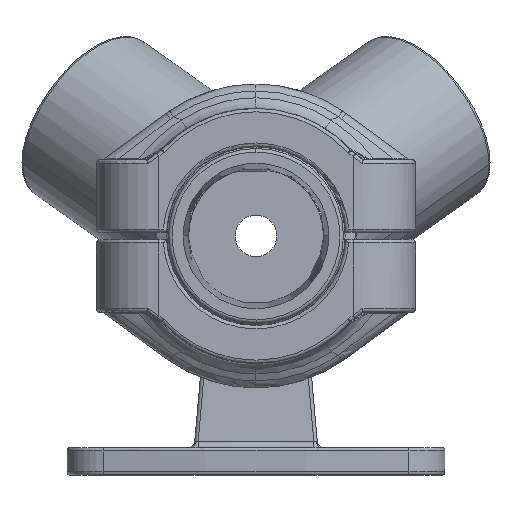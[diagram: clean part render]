
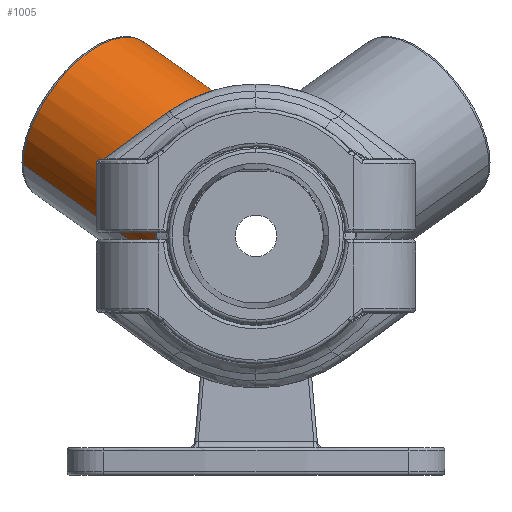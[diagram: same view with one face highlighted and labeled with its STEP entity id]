
A CAD part, left-side view. The second image highlights one B-rep face of the part: STEP entity #1005.
In plain terms, the highlighted cylindrical face has radius 13.5 mm (diameter 27 mm), a partial arc.
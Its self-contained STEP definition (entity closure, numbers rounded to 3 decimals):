
#512=B_SPLINE_CURVE_WITH_KNOTS('',3,(#12126,#12127,#12128,#12129),.UNSPECIFIED.,
 .F.,.F.,(4,4),(0.,1.),.UNSPECIFIED.);
#513=B_SPLINE_CURVE_WITH_KNOTS('',3,(#12153,#12154,#12155,#12156,#12157,
#12158,#12159,#12160,#12161,#12162,#12163,#12164,#12165,#12166,#12167,#12168,
#12169),.UNSPECIFIED.,.F.,.F.,(4,1,1,1,2,2,2,2,2,4),(0.,0.25,
0.375,0.437,0.469,0.5,0.625,
0.687,0.75,1.),.UNSPECIFIED.);
#514=B_SPLINE_CURVE_WITH_KNOTS('',3,(#12171,#12172,#12173,#12174,#12175,
#12176,#12177,#12178,#12179,#12180),.UNSPECIFIED.,.F.,.F.,(4,2,2,2,4),(0.,
0.25,0.5,0.75,1.),.UNSPECIFIED.);
#515=B_SPLINE_CURVE_WITH_KNOTS('',3,(#12182,#12183,#12184,#12185,#12186,
#12187,#12188,#12189),.UNSPECIFIED.,.F.,.F.,(4,2,2,4),(0.,0.25,0.5,1.),.UNSPECIFIED.);
#1005=ADVANCED_FACE('',(#1710),#1537,.T.);
#1537=CYLINDRICAL_SURFACE('',#8609,13.5);
#1710=FACE_OUTER_BOUND('',#2227,.T.);
#2227=EDGE_LOOP('',(#3618,#3619,#3620,#3621,#3622,#3623,#3624));
#2810=LINE('',#12150,#3164);
#2811=LINE('',#12190,#3165);
#3164=VECTOR('',#9513,1.);
#3165=VECTOR('',#9514,1.);
#3618=ORIENTED_EDGE('',*,*,#6901,.T.);
#3619=ORIENTED_EDGE('',*,*,#6902,.F.);
#3620=ORIENTED_EDGE('',*,*,#6903,.F.);
#3621=ORIENTED_EDGE('',*,*,#6904,.F.);
#3622=ORIENTED_EDGE('',*,*,#6900,.F.);
#3623=ORIENTED_EDGE('',*,*,#6905,.T.);
#3624=ORIENTED_EDGE('',*,*,#6906,.F.);
#6130=VERTEX_POINT('',#12066);
#6131=VERTEX_POINT('',#12125);
#6132=VERTEX_POINT('',#12151);
#6133=VERTEX_POINT('',#12152);
#6134=VERTEX_POINT('',#12170);
#6135=VERTEX_POINT('',#12181);
#6136=VERTEX_POINT('',#12191);
#6900=EDGE_CURVE('',#6130,#6131,#512,.T.);
#6901=EDGE_CURVE('',#6132,#6133,#2810,.T.);
#6902=EDGE_CURVE('',#6134,#6133,#513,.T.);
#6903=EDGE_CURVE('',#6135,#6134,#514,.T.);
#6904=EDGE_CURVE('',#6131,#6135,#515,.T.);
#6905=EDGE_CURVE('',#6130,#6136,#2811,.T.);
#6906=EDGE_CURVE('',#6132,#6136,#8118,.T.);
#8118=CIRCLE('',#8608,13.5);
#8608=AXIS2_PLACEMENT_3D('',#12192,#9515,#9516);
#8609=AXIS2_PLACEMENT_3D('',#12193,#9517,#9518);
#9513=DIRECTION('',(-0.5,-0.707,-0.5));
#9514=DIRECTION('',(0.5,0.707,0.5));
#9515=DIRECTION('',(0.5,0.707,0.5));
#9516=DIRECTION('',(-0.5,0.707,-0.5));
#9517=DIRECTION('',(-0.5,-0.707,-0.5));
#9518=DIRECTION('',(0.5,-0.707,0.5));
#12066=CARTESIAN_POINT('',(64.484,1.392,14.484));
#12125=CARTESIAN_POINT('',(63.5,0.707,14.465));
#12126=CARTESIAN_POINT('',(64.484,1.392,14.484));
#12127=CARTESIAN_POINT('',(64.158,1.16,14.483));
#12128=CARTESIAN_POINT('',(63.83,0.932,14.476));
#12129=CARTESIAN_POINT('',(63.5,0.707,14.465));
#12150=CARTESIAN_POINT('',(60.25,33.588,10.25));
#12151=CARTESIAN_POINT('',(60.25,33.588,10.25));
#12152=CARTESIAN_POINT('',(46.151,13.649,-3.849));
#12153=CARTESIAN_POINT('',(44.337,14.328,0.256));
#12154=CARTESIAN_POINT('',(44.463,14.322,-0.102));
#12155=CARTESIAN_POINT('',(44.662,14.292,-0.635));
#12156=CARTESIAN_POINT('',(44.911,14.224,-1.248));
#12157=CARTESIAN_POINT('',(45.04,14.181,-1.551));
#12158=CARTESIAN_POINT('',(45.095,14.161,-1.681));
#12159=CARTESIAN_POINT('',(45.133,14.148,-1.767));
#12160=CARTESIAN_POINT('',(45.167,14.135,-1.844));
#12161=CARTESIAN_POINT('',(45.185,14.127,-1.887));
#12162=CARTESIAN_POINT('',(45.231,14.111,-1.99));
#12163=CARTESIAN_POINT('',(45.347,14.062,-2.245));
#12164=CARTESIAN_POINT('',(45.394,14.042,-2.347));
#12165=CARTESIAN_POINT('',(45.505,13.991,-2.584));
#12166=CARTESIAN_POINT('',(45.59,13.951,-2.761));
#12167=CARTESIAN_POINT('',(45.854,13.82,-3.299));
#12168=CARTESIAN_POINT('',(46.027,13.721,-3.623));
#12169=CARTESIAN_POINT('',(46.151,13.649,-3.849));
#12170=CARTESIAN_POINT('',(44.337,14.328,0.256));
#12171=CARTESIAN_POINT('',(46.501,0.269,14.156));
#12172=CARTESIAN_POINT('',(45.577,1.939,14.181));
#12173=CARTESIAN_POINT('',(44.805,3.706,13.912));
#12174=CARTESIAN_POINT('',(43.584,7.105,12.66));
#12175=CARTESIAN_POINT('',(43.145,8.738,11.672));
#12176=CARTESIAN_POINT('',(42.719,11.489,9.058));
#12177=CARTESIAN_POINT('',(42.737,12.597,7.437));
#12178=CARTESIAN_POINT('',(43.231,14.03,3.931));
#12179=CARTESIAN_POINT('',(43.701,14.357,2.059));
#12180=CARTESIAN_POINT('',(44.337,14.328,0.256));
#12181=CARTESIAN_POINT('',(46.501,0.269,14.156));
#12182=CARTESIAN_POINT('',(63.5,0.707,14.465));
#12183=CARTESIAN_POINT('',(62.364,0.703,15.443));
#12184=CARTESIAN_POINT('',(60.99,0.685,16.131));
#12185=CARTESIAN_POINT('',(58.089,0.632,16.911));
#12186=CARTESIAN_POINT('',(56.566,0.596,17.014));
#12187=CARTESIAN_POINT('',(52.057,0.473,16.681));
#12188=CARTESIAN_POINT('',(49.139,0.373,15.638));
#12189=CARTESIAN_POINT('',(46.501,0.269,14.156));
#12190=CARTESIAN_POINT('',(64.484,1.392,14.484));
#12191=CARTESIAN_POINT('',(73.75,14.496,23.75));
#12192=CARTESIAN_POINT('',(67.,24.042,17.));
#12193=CARTESIAN_POINT('',(50.,0.,0.));
